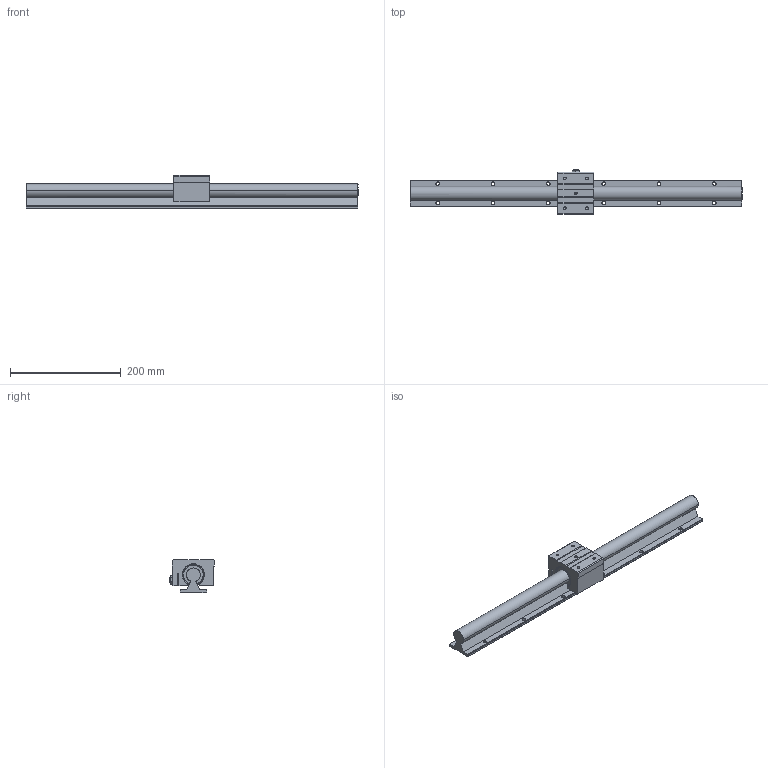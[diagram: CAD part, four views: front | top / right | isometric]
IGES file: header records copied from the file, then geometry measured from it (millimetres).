
Global section: file name: No Iges File Name specified; native system: AutoDesk Inventor R10; preprocessor: AutoDesk Inventor Iges Exporter R10; author: No Author specified; organization: No Organization specified; date: 20101221.093824; units: millimetre
Bounding box: 600 x 81 x 60 mm (x, y, z)
Surface area: 147930.4 mm2 (no closed solid volume)
Topology: 0 solids, 0 shells, 280 faces, 1818 edges, 1794 vertices
Faces by surface type: bspline 280
